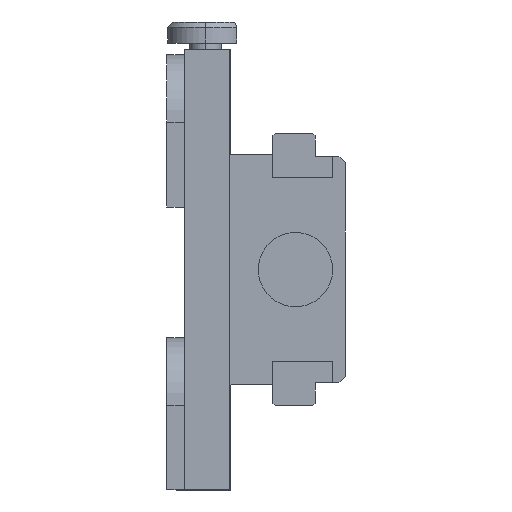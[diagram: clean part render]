
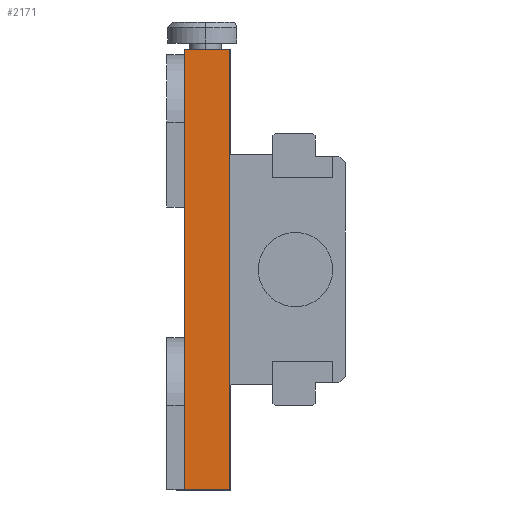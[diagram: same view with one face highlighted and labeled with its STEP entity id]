
A CAD part, left-side view. The second image highlights one B-rep face of the part: STEP entity #2171.
In plain terms, the highlighted planar face has unit normal (-1, 0, 0) as drawn and (0, 0, -1) by its records, which use the part's own axes.
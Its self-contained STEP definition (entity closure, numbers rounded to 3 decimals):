
#102 = VECTOR ( 'NONE', #1604, 1000. ) ;
#119 = CARTESIAN_POINT ( 'NONE',  ( 62.3, 18.5, -34.5 ) ) ;
#197 = VERTEX_POINT ( 'NONE', #1657 ) ;
#233 = CARTESIAN_POINT ( 'NONE',  ( -62.3, 18.5, -34.5 ) ) ;
#310 = DIRECTION ( 'NONE',  ( -1., 0., 0. ) ) ;
#375 = LINE ( 'NONE', #892, #1288 ) ;
#454 = VERTEX_POINT ( 'NONE', #119 ) ;
#568 = DIRECTION ( 'NONE',  ( 0., 1., 0. ) ) ;
#580 = VECTOR ( 'NONE', #310, 1000. ) ;
#581 = LINE ( 'NONE', #1253, #102 ) ;
#637 = EDGE_CURVE ( 'NONE', #454, #197, #581, .T. ) ;
#729 = DIRECTION ( 'NONE',  ( -1., 0., 0. ) ) ;
#816 = ORIENTED_EDGE ( 'NONE', *, *, #1926, .F. ) ;
#852 = VERTEX_POINT ( 'NONE', #2036 ) ;
#892 = CARTESIAN_POINT ( 'NONE',  ( 62.3, 18.5, -34.5 ) ) ;
#950 = VECTOR ( 'NONE', #568, 1000. ) ;
#1024 = CARTESIAN_POINT ( 'NONE',  ( -62.3, 18.5, -34.5 ) ) ;
#1069 = ORIENTED_EDGE ( 'NONE', *, *, #2272, .T. ) ;
#1164 = PLANE ( 'NONE',  #1443 ) ;
#1209 = LINE ( 'NONE', #233, #950 ) ;
#1217 = CARTESIAN_POINT ( 'NONE',  ( 62.3, 31.4, -34.5 ) ) ;
#1253 = CARTESIAN_POINT ( 'NONE',  ( 62.3, 18.5, -34.5 ) ) ;
#1288 = VECTOR ( 'NONE', #729, 1000. ) ;
#1443 = AXIS2_PLACEMENT_3D ( 'NONE', #1665, #2156, #1644 ) ;
#1579 = VERTEX_POINT ( 'NONE', #1024 ) ;
#1604 = DIRECTION ( 'NONE',  ( 0., 1., 0. ) ) ;
#1630 = EDGE_CURVE ( 'NONE', #1579, #852, #1209, .T. ) ;
#1644 = DIRECTION ( 'NONE',  ( 1., 0., 0. ) ) ;
#1657 = CARTESIAN_POINT ( 'NONE',  ( 62.3, 31.4, -34.5 ) ) ;
#1665 = CARTESIAN_POINT ( 'NONE',  ( 62.3, 18.5, -34.5 ) ) ;
#1907 = FACE_OUTER_BOUND ( 'NONE', #2158, .T. ) ;
#1926 = EDGE_CURVE ( 'NONE', #197, #852, #1997, .T. ) ;
#1997 = LINE ( 'NONE', #1217, #580 ) ;
#2036 = CARTESIAN_POINT ( 'NONE',  ( -62.3, 31.4, -34.5 ) ) ;
#2156 = DIRECTION ( 'NONE',  ( 0., 0., 1. ) ) ;
#2158 = EDGE_LOOP ( 'NONE', ( #2275, #816, #2163, #1069 ) ) ;
#2163 = ORIENTED_EDGE ( 'NONE', *, *, #637, .F. ) ;
#2171 = ADVANCED_FACE ( 'NONE', ( #1907 ), #1164, .F. ) ;
#2272 = EDGE_CURVE ( 'NONE', #454, #1579, #375, .T. ) ;
#2275 = ORIENTED_EDGE ( 'NONE', *, *, #1630, .T. ) ;
